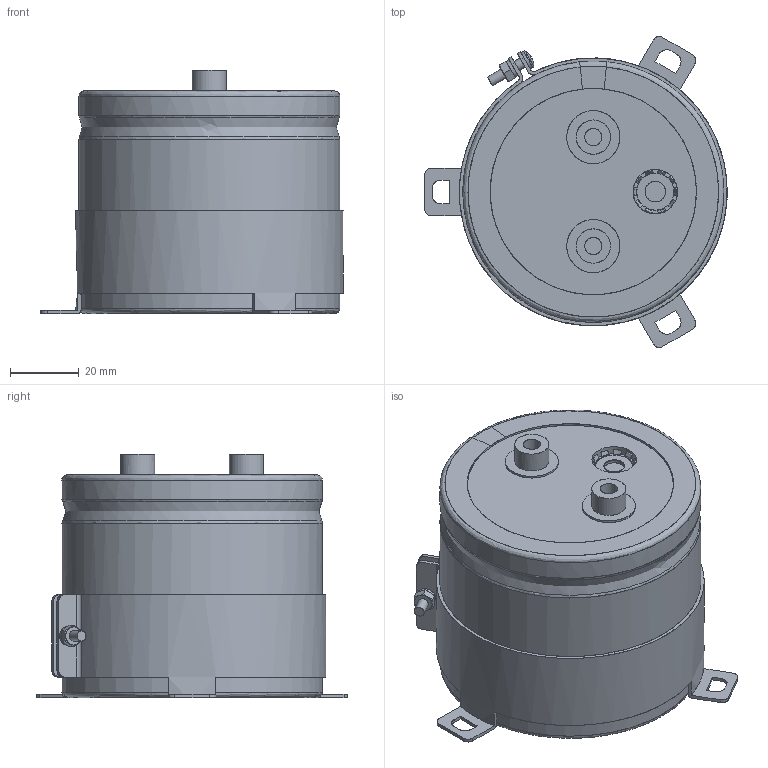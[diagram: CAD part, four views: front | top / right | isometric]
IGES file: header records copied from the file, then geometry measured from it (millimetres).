
Start section: JAMA-IS VERSION  1.0
Bounding box: 88.3 x 90.75 x 71 mm (x, y, z)
Surface area: 77149.2 mm2 (no closed solid volume)
Topology: 0 solids, 0 shells, 259 faces, 4448 edges, 4417 vertices
Faces by surface type: bspline 259
